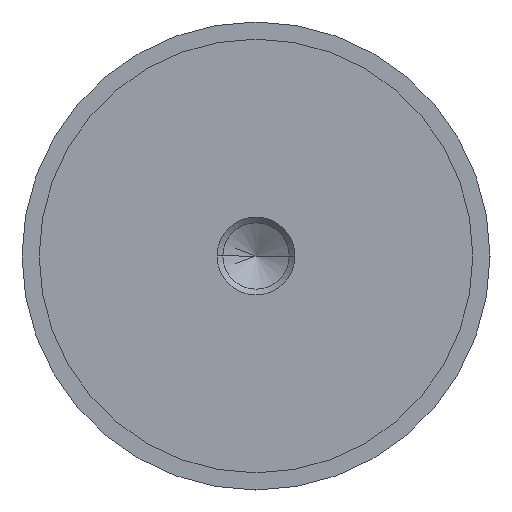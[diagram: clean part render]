
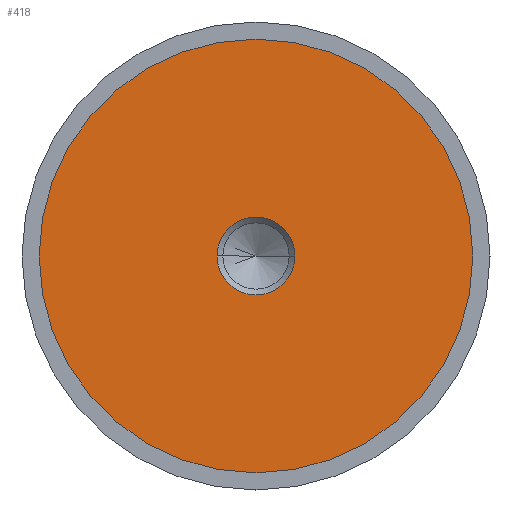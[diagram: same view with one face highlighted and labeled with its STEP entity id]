
A CAD part, left-side view. The second image highlights one B-rep face of the part: STEP entity #418.
In plain terms, the highlighted planar face has unit normal (-1, 0, 0).
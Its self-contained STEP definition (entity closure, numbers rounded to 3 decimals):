
#8 = ORIENTED_EDGE ( 'NONE', *, *, #386, .T. ) ;
#51 = EDGE_CURVE ( 'NONE', #61, #450, #132, .T. ) ;
#59 = EDGE_CURVE ( 'NONE', #276, #249, #319, .T. ) ;
#60 = CARTESIAN_POINT ( 'NONE',  ( -14.99, 0., -27.8 ) ) ;
#61 = VERTEX_POINT ( 'NONE', #539 ) ;
#64 = DIRECTION ( 'NONE',  ( 0., 0., -1. ) ) ;
#70 = EDGE_LOOP ( 'NONE', ( #8, #176 ) ) ;
#72 = CARTESIAN_POINT ( 'NONE',  ( -14.99, 0., 0. ) ) ;
#87 = DIRECTION ( 'NONE',  ( -1., 0., 0. ) ) ;
#122 = EDGE_LOOP ( 'NONE', ( #218, #382 ) ) ;
#129 = CARTESIAN_POINT ( 'NONE',  ( -14.99, 27.8, 0. ) ) ;
#132 = CIRCLE ( 'NONE', #378, 4.99 ) ;
#137 = DIRECTION ( 'NONE',  ( 0., 0., 1. ) ) ;
#147 = CIRCLE ( 'NONE', #356, 4.99 ) ;
#148 = CARTESIAN_POINT ( 'NONE',  ( -14.99, 0., 0. ) ) ;
#176 = ORIENTED_EDGE ( 'NONE', *, *, #51, .T. ) ;
#218 = ORIENTED_EDGE ( 'NONE', *, *, #59, .T. ) ;
#231 = CARTESIAN_POINT ( 'NONE',  ( -14.99, 0., 27.8 ) ) ;
#246 = PLANE ( 'NONE',  #403 ) ;
#249 = VERTEX_POINT ( 'NONE', #60 ) ;
#263 = AXIS2_PLACEMENT_3D ( 'NONE', #647, #87, #699 ) ;
#276 = VERTEX_POINT ( 'NONE', #231 ) ;
#297 = CARTESIAN_POINT ( 'NONE',  ( -14.99, -4.99, 0. ) ) ;
#300 = FACE_OUTER_BOUND ( 'NONE', #122, .T. ) ;
#314 = DIRECTION ( 'NONE',  ( 0., 0., -1. ) ) ;
#319 = CIRCLE ( 'NONE', #439, 27.8 ) ;
#346 = DIRECTION ( 'NONE',  ( 0., 0., -1. ) ) ;
#353 = FACE_BOUND ( 'NONE', #70, .T. ) ;
#356 = AXIS2_PLACEMENT_3D ( 'NONE', #72, #694, #346 ) ;
#370 = CARTESIAN_POINT ( 'NONE',  ( -14.99, 0., 0. ) ) ;
#378 = AXIS2_PLACEMENT_3D ( 'NONE', #148, #590, #314 ) ;
#382 = ORIENTED_EDGE ( 'NONE', *, *, #541, .T. ) ;
#386 = EDGE_CURVE ( 'NONE', #450, #61, #147, .T. ) ;
#403 = AXIS2_PLACEMENT_3D ( 'NONE', #129, #580, #64 ) ;
#418 = ADVANCED_FACE ( 'NONE', ( #353, #300 ), #246, .F. ) ;
#439 = AXIS2_PLACEMENT_3D ( 'NONE', #370, #643, #137 ) ;
#450 = VERTEX_POINT ( 'NONE', #297 ) ;
#539 = CARTESIAN_POINT ( 'NONE',  ( -14.99, 4.99, 0. ) ) ;
#541 = EDGE_CURVE ( 'NONE', #249, #276, #592, .T. ) ;
#580 = DIRECTION ( 'NONE',  ( 1., 0., 0. ) ) ;
#590 = DIRECTION ( 'NONE',  ( 1., 0., 0. ) ) ;
#592 = CIRCLE ( 'NONE', #263, 27.8 ) ;
#643 = DIRECTION ( 'NONE',  ( -1., 0., 0. ) ) ;
#647 = CARTESIAN_POINT ( 'NONE',  ( -14.99, 0., 0. ) ) ;
#694 = DIRECTION ( 'NONE',  ( 1., 0., 0. ) ) ;
#699 = DIRECTION ( 'NONE',  ( 0., 0., 1. ) ) ;
